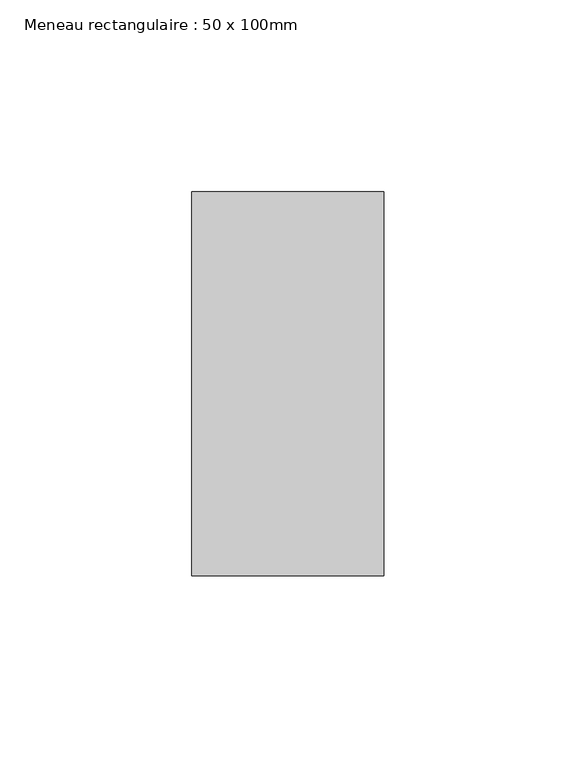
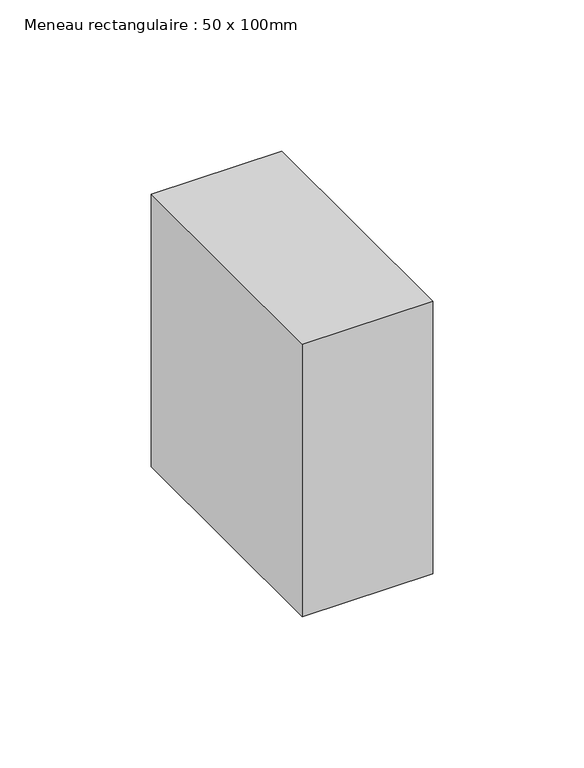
"""IFC4 building model written with IfcOpenShell, lengths in millimetres: member geometry, Meneau rectangulaire : 50 x 100mm."""

from ifc_helpers import new_model, si_unit, frame, origin, place, context, project, spatial, polyline, outline, extrude, source, transform, mapped, element, save


def meneau_rectangulaire_50_x_100mm_6acf6161(model_context):
    return source(origin(), model_context, "Body", "SweptSolid", [
        extrude(outline(polyline([(0.0, 50.0), (0.0, -50.0), (-50.0, -50.0), (-50.0, 50.0), (0.0, 50.0)])), frame((0.0, 0.0, -110.1375205), z_axis=(0.0, 0.0, 1.0), x_axis=(1.0, 0.0, 0.0)), (0.0, 0.0, 1.0), 110.1375205),
    ])


if __name__ == "__main__":
    model = new_model("IFC4")
    model_context = context("Model", 3, world=origin())
    ifc_project = project(units=[si_unit("LENGTHUNIT", "METRE", prefix="MILLI")], contexts=[model_context])
    site = spatial("IfcSite", under=ifc_project)
    building = spatial("IfcBuilding", under=site)
    placement = place(None, origin())
    meneau_rectangulaire_50_x_100mm_shape = meneau_rectangulaire_50_x_100mm_6acf6161(model_context)
    element("IfcMember", 1, ObjectType="Meneau rectangulaire : 50 x 100mm", at=placement, inside=building, context=model_context, shape_type="MappedRepresentation", body=[
        mapped(meneau_rectangulaire_50_x_100mm_shape, transform((0.0, 0.0, 0.0), x_axis=(1.0, 0.0, 0.0), y_axis=(0.0, 1.0, 0.0), z_axis=(0.0, 0.0, 1.0))),
    ])
    save(model, "model.ifc")
